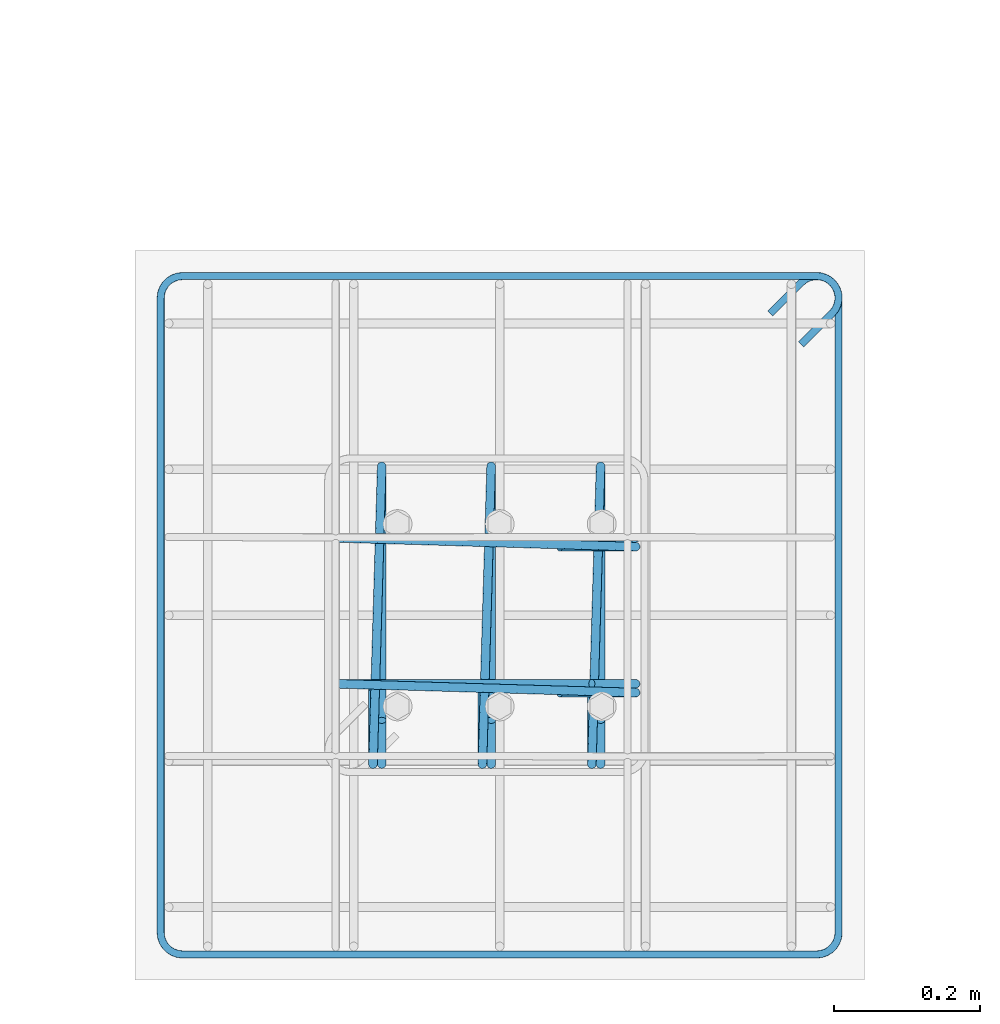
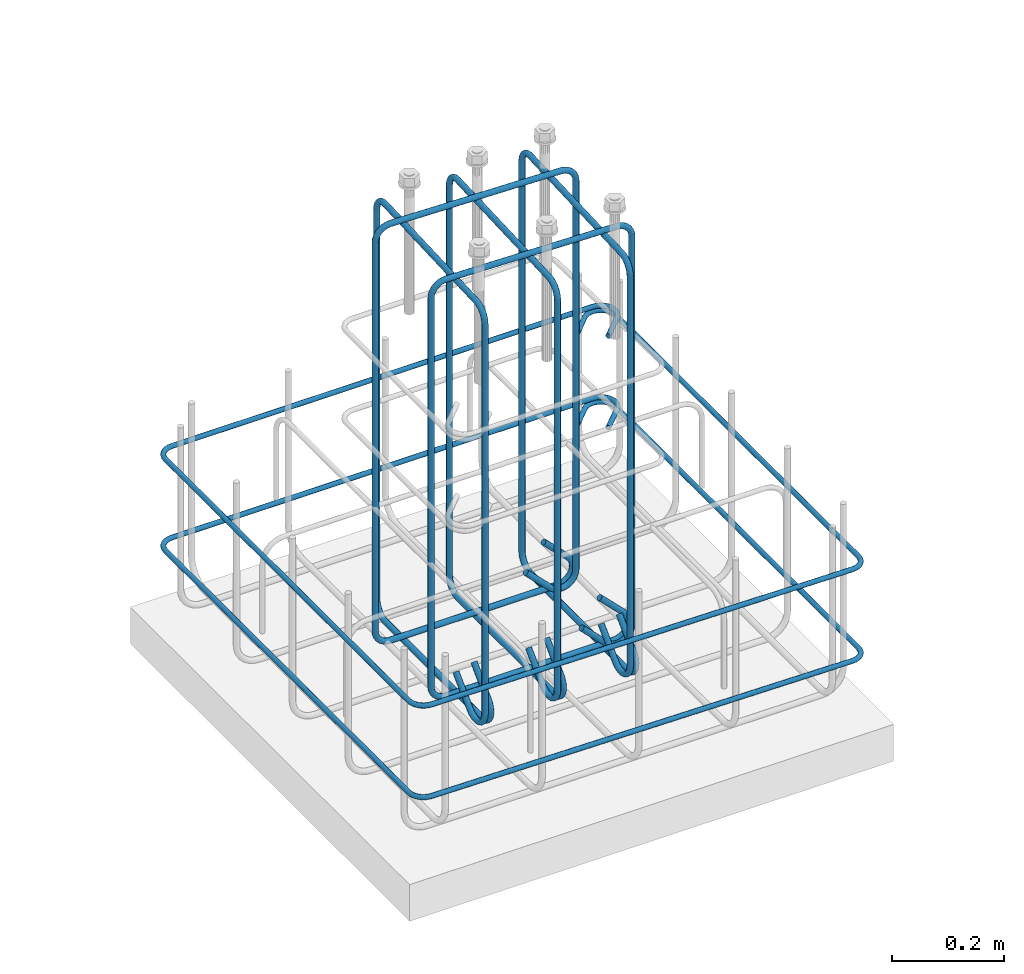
# One storey, part 4 of 12: 3 reinforcing bars.
"""IFC4X3_ADD2 building model written with IfcOpenShell, lengths in millimetres."""

from ifc_helpers import new_model, entity, si_unit, converted_unit, derived_unit, direction, frame, origin, place, context, subcontext, project, spatial, material, type_object, element, save


model = new_model("IFC4X3_ADD2")

# Units and contexts
model_context = context("Model", 3, precision=0.01, world=origin(), true_north=direction((6.123233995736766e-17, 1.0)))
plan_context = context("Plan", 3, precision=0.01, world=origin(), true_north=direction((6.123233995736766e-17, 1.0)))
body_context = subcontext(model_context, "Body", "Model", "MODEL_VIEW")
ifc_project = project(units=[si_unit("LENGTHUNIT", "METRE", prefix="MILLI"), converted_unit("PLANEANGLEUNIT", "DEGREE", entity("IfcPlaneAngleMeasure", 0.017453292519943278), si_unit("PLANEANGLEUNIT", "RADIAN"), dimensions=[0, 0, 0, 0, 0, 0, 0]), si_unit("AREAUNIT", "SQUARE_METRE"), si_unit("VOLUMEUNIT", "CUBIC_METRE"), derived_unit("THERMALTRANSMITTANCEUNIT", [(si_unit("MASSUNIT", "GRAM", prefix="KILO"), 1), (si_unit("THERMODYNAMICTEMPERATUREUNIT", "KELVIN"), -1), (si_unit("TIMEUNIT", "SECOND"), -3)]), derived_unit("USERDEFINED", [(si_unit("MASSUNIT", "GRAM", prefix="KILO"), 1), (si_unit("THERMODYNAMICTEMPERATUREUNIT", "KELVIN"), -1), (si_unit("TIMEUNIT", "SECOND"), -2)]), derived_unit("THERMALRESISTANCEUNIT", [(si_unit("MASSUNIT", "GRAM", prefix="KILO"), -1), (si_unit("TIMEUNIT", "SECOND"), 3), (si_unit("THERMODYNAMICTEMPERATUREUNIT", "KELVIN"), 1)]), si_unit("MASSUNIT", "GRAM", prefix="KILO"), derived_unit("MOMENTOFINERTIAUNIT", [(si_unit("LENGTHUNIT", "METRE"), 4)]), derived_unit("LINEARFORCEUNIT", [(si_unit("MASSUNIT", "GRAM", prefix="KILO"), 1), (si_unit("TIMEUNIT", "SECOND"), -2)]), derived_unit("WARPINGCONSTANTUNIT", [(si_unit("LENGTHUNIT", "METRE"), 6)]), si_unit("PRESSUREUNIT", "PASCAL"), derived_unit("MASSDENSITYUNIT", [(si_unit("MASSUNIT", "GRAM", prefix="KILO"), 1), (si_unit("LENGTHUNIT", "METRE"), -3)]), derived_unit("MODULUSOFELASTICITYUNIT", [(si_unit("MASSUNIT", "GRAM", prefix="KILO"), 1), (si_unit("TIMEUNIT", "SECOND"), -2), (si_unit("LENGTHUNIT", "METRE"), -1)]), derived_unit("THERMALEXPANSIONCOEFFICIENTUNIT", [(si_unit("THERMODYNAMICTEMPERATUREUNIT", "KELVIN"), -1)]), derived_unit("VAPORPERMEABILITYUNIT", [(si_unit("LENGTHUNIT", "METRE"), -1), (si_unit("TIMEUNIT", "SECOND"), 1)]), derived_unit("USERDEFINED", [(si_unit("MASSUNIT", "GRAM", prefix="KILO"), 1), (si_unit("TIMEUNIT", "SECOND"), -3), (si_unit("LENGTHUNIT", "METRE"), 3), (si_unit("ELECTRICCURRENTUNIT", "AMPERE"), -2)]), derived_unit("SPECIFICHEATCAPACITYUNIT", [(si_unit("THERMODYNAMICTEMPERATUREUNIT", "KELVIN"), -1), (si_unit("TIMEUNIT", "SECOND"), -2), (si_unit("LENGTHUNIT", "METRE"), 2)]), derived_unit("THERMALCONDUCTANCEUNIT", [(si_unit("MASSUNIT", "GRAM", prefix="KILO"), 1), (si_unit("THERMODYNAMICTEMPERATUREUNIT", "KELVIN"), -1), (si_unit("TIMEUNIT", "SECOND"), -3), (si_unit("LENGTHUNIT", "METRE"), 1)])], contexts=[model_context, plan_context])

# Site, building, storey
site_placement = place(None, origin())
site = spatial("IfcSite", under=ifc_project, at=site_placement, Name="Default", CompositionType="ELEMENT")
building_placement = place(site_placement, origin())
building = spatial("IfcBuilding", under=site, at=building_placement, Name="Complex structure", CompositionType="ELEMENT")
storey_placement = place(building_placement, frame((0.0, 0.0, -1200.0)))
storey = spatial("IfcBuildingStorey", under=building, at=storey_placement, Name="Level -03", CompositionType="ELEMENT", Elevation=-1200.0)

# Reinforcing bars
ifc_material = material(Name="Steel Rebar - B500A, B or C", Category="Unassigned")
reinforcing_bar_type_1 = type_object("IfcReinforcingBarType", Name="Rebar Bar:12mm", PredefinedType="NOTDEFINED")
reinforcing_bar_1_placement = place(storey_placement, origin())
ifc_direction_1 = entity("IfcDirection", [1.0, 0.0, 0.0])
ifc_direction_2 = entity("IfcDirection", [1.0, 0.0, 0.0])
ifc_direction_3 = entity("IfcDirection", [1.0, 0.0, 0.0])
element("IfcReinforcingBar", 1, at=reinforcing_bar_1_placement, inside=storey, type_object=reinforcing_bar_type_1, material=ifc_material, Name="Rebar Bar:12mm : Shape 52", ObjectType="Rebar Bar:12mm", context=body_context, shape_type="AdvancedSweptSolid", body=[
    entity("IfcSweptDiskSolid", entity("IfcCompositeCurve", [entity("IfcCompositeCurveSegment", "CONTINUOUS", True, entity("IfcPolyline", [entity("IfcCartesianPoint", [-9306.87155030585, -1426.8753259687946, 151.83199846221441]), entity("IfcCartesianPoint", [-9306.87155030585, -1477.7870142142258, 100.92031021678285])])), entity("IfcCompositeCurveSegment", "CONTINUOUS", True, entity("IfcTrimmedCurve", entity("IfcCircle", entity("IfcAxis2Placement3D", entity("IfcCartesianPoint", [-9306.87155030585, -1455.8667039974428, 79.0]), ifc_direction_1, entity("IfcDirection", [0.0, -0.7071067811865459, -0.7071067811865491])), 31.0), [entity("IfcParameterValue", 269.9999999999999)], [entity("IfcParameterValue", 44.99999999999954)], True, "PARAMETER")), entity("IfcCompositeCurveSegment", "CONTINUOUS", True, entity("IfcPolyline", [entity("IfcCartesianPoint", [-9306.87155030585, -1455.8667039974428, 48.0]), entity("IfcCartesianPoint", [-9306.87155030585, -1109.866703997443, 48.0])])), entity("IfcCompositeCurveSegment", "CONTINUOUS", True, entity("IfcTrimmedCurve", entity("IfcCircle", entity("IfcAxis2Placement3D", entity("IfcCartesianPoint", [-9306.87155030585, -1109.866703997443, 79.0]), ifc_direction_1, entity("IfcDirection", [0.0, 1.0, 0.0])), 31.0), [entity("IfcParameterValue", 269.9999999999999)], [entity("IfcParameterValue", 360.00000000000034)], True, "PARAMETER")), entity("IfcCompositeCurveSegment", "CONTINUOUS", True, entity("IfcPolyline", [entity("IfcCartesianPoint", [-9306.87155030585, -1078.866703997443, 79.0]), entity("IfcCartesianPoint", [-9306.87155030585, -1078.866703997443, 930.0])])), entity("IfcCompositeCurveSegment", "CONTINUOUS", True, entity("IfcTrimmedCurve", entity("IfcCircle", entity("IfcAxis2Placement3D", entity("IfcCartesianPoint", [-9307.782920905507, -1109.8533043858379, 930.0]), entity("IfcDirection", [0.9995677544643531, -0.02939905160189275, 0.0]), entity("IfcDirection", [0.0, 0.0, 1.0])), 31.0), [entity("IfcParameterValue", 269.9999999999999)], [entity("IfcParameterValue", 360.00000000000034)], True, "PARAMETER")), entity("IfcCompositeCurveSegment", "CONTINUOUS", True, entity("IfcPolyline", [entity("IfcCartesianPoint", [-9307.782920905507, -1109.8533043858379, 961.0]), entity("IfcCartesianPoint", [-9317.96017970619, -1455.8801036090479, 961.0])])), entity("IfcCompositeCurveSegment", "CONTINUOUS", True, entity("IfcTrimmedCurve", entity("IfcCircle", entity("IfcAxis2Placement3D", entity("IfcCartesianPoint", [-9317.96017970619, -1455.8801036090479, 930.0]), entity("IfcDirection", [0.9995677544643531, -0.02939905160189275, 0.0]), entity("IfcDirection", [-0.02939905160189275, -0.9995677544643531, 0.0])), 31.0), [entity("IfcParameterValue", 269.9999999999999)], [entity("IfcParameterValue", 360.00000000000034)], True, "PARAMETER")), entity("IfcCompositeCurveSegment", "CONTINUOUS", True, entity("IfcPolyline", [entity("IfcCartesianPoint", [-9318.87155030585, -1486.8667039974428, 930.0]), entity("IfcCartesianPoint", [-9318.87155030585, -1486.8667039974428, 79.0])])), entity("IfcCompositeCurveSegment", "CONTINUOUS", True, entity("IfcTrimmedCurve", entity("IfcCircle", entity("IfcAxis2Placement3D", entity("IfcCartesianPoint", [-9318.87155030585, -1455.8667039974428, 79.0]), ifc_direction_1, entity("IfcDirection", [0.0, 0.0, -1.0])), 31.0), [entity("IfcParameterValue", 269.9999999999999)], [entity("IfcParameterValue", 44.99999999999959)], True, "PARAMETER")), entity("IfcCompositeCurveSegment", "CONTINUOUS", True, entity("IfcPolyline", [entity("IfcCartesianPoint", [-9318.87155030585, -1433.9463937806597, 57.0796897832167]), entity("IfcCartesianPoint", [-9318.87155030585, -1383.034705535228, 107.99137802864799])]))], False), 6.0, None, 0.0, 546.0000000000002),
    entity("IfcSweptDiskSolid", entity("IfcCompositeCurve", [entity("IfcCompositeCurveSegment", "CONTINUOUS", True, entity("IfcPolyline", [entity("IfcCartesianPoint", [-9156.87155030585, -1426.8753259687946, 151.83199846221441]), entity("IfcCartesianPoint", [-9156.87155030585, -1477.7870142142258, 100.92031021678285])])), entity("IfcCompositeCurveSegment", "CONTINUOUS", True, entity("IfcTrimmedCurve", entity("IfcCircle", entity("IfcAxis2Placement3D", entity("IfcCartesianPoint", [-9156.87155030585, -1455.8667039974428, 79.0]), ifc_direction_2, entity("IfcDirection", [0.0, -0.7071067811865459, -0.7071067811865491])), 31.0), [entity("IfcParameterValue", 269.9999999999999)], [entity("IfcParameterValue", 44.99999999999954)], True, "PARAMETER")), entity("IfcCompositeCurveSegment", "CONTINUOUS", True, entity("IfcPolyline", [entity("IfcCartesianPoint", [-9156.87155030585, -1455.8667039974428, 48.0]), entity("IfcCartesianPoint", [-9156.87155030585, -1109.866703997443, 48.0])])), entity("IfcCompositeCurveSegment", "CONTINUOUS", True, entity("IfcTrimmedCurve", entity("IfcCircle", entity("IfcAxis2Placement3D", entity("IfcCartesianPoint", [-9156.87155030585, -1109.866703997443, 79.0]), ifc_direction_2, entity("IfcDirection", [0.0, 1.0, 0.0])), 31.0), [entity("IfcParameterValue", 269.9999999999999)], [entity("IfcParameterValue", 360.00000000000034)], True, "PARAMETER")), entity("IfcCompositeCurveSegment", "CONTINUOUS", True, entity("IfcPolyline", [entity("IfcCartesianPoint", [-9156.87155030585, -1078.866703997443, 79.0]), entity("IfcCartesianPoint", [-9156.87155030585, -1078.866703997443, 930.0])])), entity("IfcCompositeCurveSegment", "CONTINUOUS", True, entity("IfcTrimmedCurve", entity("IfcCircle", entity("IfcAxis2Placement3D", entity("IfcCartesianPoint", [-9157.782920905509, -1109.8533043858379, 930.0]), entity("IfcDirection", [0.9995677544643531, -0.02939905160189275, 0.0]), entity("IfcDirection", [0.0, 0.0, 1.0])), 31.0), [entity("IfcParameterValue", 269.9999999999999)], [entity("IfcParameterValue", 360.00000000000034)], True, "PARAMETER")), entity("IfcCompositeCurveSegment", "CONTINUOUS", True, entity("IfcPolyline", [entity("IfcCartesianPoint", [-9157.782920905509, -1109.8533043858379, 961.0]), entity("IfcCartesianPoint", [-9167.960179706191, -1455.8801036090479, 961.0])])), entity("IfcCompositeCurveSegment", "CONTINUOUS", True, entity("IfcTrimmedCurve", entity("IfcCircle", entity("IfcAxis2Placement3D", entity("IfcCartesianPoint", [-9167.960179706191, -1455.8801036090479, 930.0]), entity("IfcDirection", [0.9995677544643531, -0.02939905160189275, 0.0]), entity("IfcDirection", [-0.02939905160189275, -0.9995677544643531, 0.0])), 31.0), [entity("IfcParameterValue", 269.9999999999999)], [entity("IfcParameterValue", 360.00000000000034)], True, "PARAMETER")), entity("IfcCompositeCurveSegment", "CONTINUOUS", True, entity("IfcPolyline", [entity("IfcCartesianPoint", [-9168.87155030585, -1486.8667039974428, 930.0]), entity("IfcCartesianPoint", [-9168.87155030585, -1486.8667039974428, 79.0])])), entity("IfcCompositeCurveSegment", "CONTINUOUS", True, entity("IfcTrimmedCurve", entity("IfcCircle", entity("IfcAxis2Placement3D", entity("IfcCartesianPoint", [-9168.87155030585, -1455.8667039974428, 79.0]), ifc_direction_2, entity("IfcDirection", [0.0, 0.0, -1.0])), 31.0), [entity("IfcParameterValue", 269.9999999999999)], [entity("IfcParameterValue", 44.99999999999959)], True, "PARAMETER")), entity("IfcCompositeCurveSegment", "CONTINUOUS", True, entity("IfcPolyline", [entity("IfcCartesianPoint", [-9168.87155030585, -1433.9463937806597, 57.0796897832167]), entity("IfcCartesianPoint", [-9168.87155030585, -1383.034705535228, 107.99137802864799])]))], False), 6.0, None, 0.0, 546.0000000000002),
    entity("IfcSweptDiskSolid", entity("IfcCompositeCurve", [entity("IfcCompositeCurveSegment", "CONTINUOUS", True, entity("IfcPolyline", [entity("IfcCartesianPoint", [-9006.87155030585, -1426.8753259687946, 151.83199846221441]), entity("IfcCartesianPoint", [-9006.87155030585, -1477.7870142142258, 100.92031021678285])])), entity("IfcCompositeCurveSegment", "CONTINUOUS", True, entity("IfcTrimmedCurve", entity("IfcCircle", entity("IfcAxis2Placement3D", entity("IfcCartesianPoint", [-9006.87155030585, -1455.8667039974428, 79.0]), ifc_direction_3, entity("IfcDirection", [0.0, -0.7071067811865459, -0.7071067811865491])), 31.0), [entity("IfcParameterValue", 269.9999999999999)], [entity("IfcParameterValue", 44.99999999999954)], True, "PARAMETER")), entity("IfcCompositeCurveSegment", "CONTINUOUS", True, entity("IfcPolyline", [entity("IfcCartesianPoint", [-9006.87155030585, -1455.8667039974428, 48.0]), entity("IfcCartesianPoint", [-9006.87155030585, -1109.866703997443, 48.0])])), entity("IfcCompositeCurveSegment", "CONTINUOUS", True, entity("IfcTrimmedCurve", entity("IfcCircle", entity("IfcAxis2Placement3D", entity("IfcCartesianPoint", [-9006.87155030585, -1109.866703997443, 79.0]), ifc_direction_3, entity("IfcDirection", [0.0, 1.0, 0.0])), 31.0), [entity("IfcParameterValue", 269.9999999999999)], [entity("IfcParameterValue", 360.00000000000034)], True, "PARAMETER")), entity("IfcCompositeCurveSegment", "CONTINUOUS", True, entity("IfcPolyline", [entity("IfcCartesianPoint", [-9006.87155030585, -1078.866703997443, 79.0]), entity("IfcCartesianPoint", [-9006.87155030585, -1078.866703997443, 930.0])])), entity("IfcCompositeCurveSegment", "CONTINUOUS", True, entity("IfcTrimmedCurve", entity("IfcCircle", entity("IfcAxis2Placement3D", entity("IfcCartesianPoint", [-9007.782920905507, -1109.8533043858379, 930.0]), entity("IfcDirection", [0.9995677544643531, -0.02939905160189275, 0.0]), entity("IfcDirection", [0.0, 0.0, 1.0])), 31.0), [entity("IfcParameterValue", 269.9999999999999)], [entity("IfcParameterValue", 360.00000000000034)], True, "PARAMETER")), entity("IfcCompositeCurveSegment", "CONTINUOUS", True, entity("IfcPolyline", [entity("IfcCartesianPoint", [-9007.782920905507, -1109.8533043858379, 961.0]), entity("IfcCartesianPoint", [-9017.96017970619, -1455.8801036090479, 961.0])])), entity("IfcCompositeCurveSegment", "CONTINUOUS", True, entity("IfcTrimmedCurve", entity("IfcCircle", entity("IfcAxis2Placement3D", entity("IfcCartesianPoint", [-9017.96017970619, -1455.8801036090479, 930.0]), entity("IfcDirection", [0.9995677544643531, -0.02939905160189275, 0.0]), entity("IfcDirection", [-0.02939905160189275, -0.9995677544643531, 0.0])), 31.0), [entity("IfcParameterValue", 269.9999999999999)], [entity("IfcParameterValue", 360.00000000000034)], True, "PARAMETER")), entity("IfcCompositeCurveSegment", "CONTINUOUS", True, entity("IfcPolyline", [entity("IfcCartesianPoint", [-9018.87155030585, -1486.8667039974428, 930.0]), entity("IfcCartesianPoint", [-9018.87155030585, -1486.8667039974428, 79.0])])), entity("IfcCompositeCurveSegment", "CONTINUOUS", True, entity("IfcTrimmedCurve", entity("IfcCircle", entity("IfcAxis2Placement3D", entity("IfcCartesianPoint", [-9018.87155030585, -1455.8667039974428, 79.0]), ifc_direction_3, entity("IfcDirection", [0.0, 0.0, -1.0])), 31.0), [entity("IfcParameterValue", 269.9999999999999)], [entity("IfcParameterValue", 44.99999999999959)], True, "PARAMETER")), entity("IfcCompositeCurveSegment", "CONTINUOUS", True, entity("IfcPolyline", [entity("IfcCartesianPoint", [-9018.87155030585, -1433.9463937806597, 57.0796897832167]), entity("IfcCartesianPoint", [-9018.87155030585, -1383.034705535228, 107.99137802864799])]))], False), 6.0, None, 0.0, 546.0000000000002),
])
reinforcing_bar_2_placement = place(storey_placement, origin())
ifc_direction_4 = entity("IfcDirection", [0.0, 1.0, 0.0])
ifc_direction_5 = entity("IfcDirection", [0.0, 1.0, 0.0])
element("IfcReinforcingBar", 2, at=reinforcing_bar_2_placement, inside=storey, type_object=reinforcing_bar_type_1, material=ifc_material, Name="Rebar Bar:12mm : Shape 52", ObjectType="Rebar Bar:12mm", context=body_context, shape_type="AdvancedSweptSolid", body=[
    entity("IfcSweptDiskSolid", entity("IfcCompositeCurve", [entity("IfcCompositeCurveSegment", "CONTINUOUS", True, entity("IfcPolyline", [entity("IfcCartesianPoint", [-9018.862928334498, -1376.866703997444, 161.83199846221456]), entity("IfcCartesianPoint", [-8967.951240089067, -1376.8667039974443, 110.92031021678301])])), entity("IfcCompositeCurveSegment", "CONTINUOUS", True, entity("IfcTrimmedCurve", entity("IfcCircle", entity("IfcAxis2Placement3D", entity("IfcCartesianPoint", [-8989.87155030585, -1376.8667039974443, 89.0]), ifc_direction_4, entity("IfcDirection", [0.7071067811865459, 0.0, -0.7071067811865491])), 31.0), [entity("IfcParameterValue", 269.9999999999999)], [entity("IfcParameterValue", 44.99999999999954)], True, "PARAMETER")), entity("IfcCompositeCurveSegment", "CONTINUOUS", True, entity("IfcPolyline", [entity("IfcCartesianPoint", [-8989.87155030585, -1376.8667039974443, 58.0]), entity("IfcCartesianPoint", [-9335.871550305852, -1376.8667039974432, 58.0])])), entity("IfcCompositeCurveSegment", "CONTINUOUS", True, entity("IfcTrimmedCurve", entity("IfcCircle", entity("IfcAxis2Placement3D", entity("IfcCartesianPoint", [-9335.871550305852, -1376.8667039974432, 89.0]), ifc_direction_4, entity("IfcDirection", [-1.0, 0.0, 0.0])), 31.0), [entity("IfcParameterValue", 269.9999999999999)], [entity("IfcParameterValue", 360.00000000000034)], True, "PARAMETER")), entity("IfcCompositeCurveSegment", "CONTINUOUS", True, entity("IfcPolyline", [entity("IfcCartesianPoint", [-9366.871550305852, -1376.8667039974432, 89.0]), entity("IfcCartesianPoint", [-9366.871550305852, -1376.8667039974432, 938.0])])), entity("IfcCompositeCurveSegment", "CONTINUOUS", True, entity("IfcTrimmedCurve", entity("IfcCircle", entity("IfcAxis2Placement3D", entity("IfcCartesianPoint", [-9335.884949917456, -1377.7780745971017, 938.0]), entity("IfcDirection", [0.029399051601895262, 0.9995677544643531, 0.0]), entity("IfcDirection", [0.0, 0.0, 1.0])), 31.0), [entity("IfcParameterValue", 269.9999999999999)], [entity("IfcParameterValue", 360.00000000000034)], True, "PARAMETER")), entity("IfcCompositeCurveSegment", "CONTINUOUS", True, entity("IfcPolyline", [entity("IfcCartesianPoint", [-9335.884949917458, -1377.7780745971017, 969.0]), entity("IfcCartesianPoint", [-8989.858150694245, -1387.9553333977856, 969.0])])), entity("IfcCompositeCurveSegment", "CONTINUOUS", True, entity("IfcTrimmedCurve", entity("IfcCircle", entity("IfcAxis2Placement3D", entity("IfcCartesianPoint", [-8989.858150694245, -1387.9553333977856, 938.0]), entity("IfcDirection", [0.029399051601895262, 0.9995677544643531, 0.0]), entity("IfcDirection", [0.9995677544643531, -0.029399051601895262, 0.0])), 31.0), [entity("IfcParameterValue", 269.9999999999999)], [entity("IfcParameterValue", 360.00000000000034)], True, "PARAMETER")), entity("IfcCompositeCurveSegment", "CONTINUOUS", True, entity("IfcPolyline", [entity("IfcCartesianPoint", [-8958.87155030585, -1388.8667039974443, 938.0]), entity("IfcCartesianPoint", [-8958.87155030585, -1388.8667039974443, 89.0])])), entity("IfcCompositeCurveSegment", "CONTINUOUS", True, entity("IfcTrimmedCurve", entity("IfcCircle", entity("IfcAxis2Placement3D", entity("IfcCartesianPoint", [-8989.87155030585, -1388.8667039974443, 89.0]), ifc_direction_4, entity("IfcDirection", [0.0, 0.0, -1.0])), 31.0), [entity("IfcParameterValue", 269.9999999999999)], [entity("IfcParameterValue", 44.99999999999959)], True, "PARAMETER")), entity("IfcCompositeCurveSegment", "CONTINUOUS", True, entity("IfcPolyline", [entity("IfcCartesianPoint", [-9011.791860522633, -1388.866703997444, 67.07968978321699]), entity("IfcCartesianPoint", [-9062.703548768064, -1388.8667039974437, 117.99137802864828])]))], False), 6.0, None, 0.0, 546.0000000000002),
    entity("IfcSweptDiskSolid", entity("IfcCompositeCurve", [entity("IfcCompositeCurveSegment", "CONTINUOUS", True, entity("IfcPolyline", [entity("IfcCartesianPoint", [-9018.862928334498, -1176.8667039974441, 161.83199846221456]), entity("IfcCartesianPoint", [-8967.951240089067, -1176.8667039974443, 110.92031021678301])])), entity("IfcCompositeCurveSegment", "CONTINUOUS", True, entity("IfcTrimmedCurve", entity("IfcCircle", entity("IfcAxis2Placement3D", entity("IfcCartesianPoint", [-8989.87155030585, -1176.8667039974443, 89.0]), ifc_direction_5, entity("IfcDirection", [0.7071067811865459, 0.0, -0.7071067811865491])), 31.0), [entity("IfcParameterValue", 269.9999999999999)], [entity("IfcParameterValue", 44.99999999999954)], True, "PARAMETER")), entity("IfcCompositeCurveSegment", "CONTINUOUS", True, entity("IfcPolyline", [entity("IfcCartesianPoint", [-8989.87155030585, -1176.8667039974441, 58.0]), entity("IfcCartesianPoint", [-9335.871550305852, -1176.8667039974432, 58.0])])), entity("IfcCompositeCurveSegment", "CONTINUOUS", True, entity("IfcTrimmedCurve", entity("IfcCircle", entity("IfcAxis2Placement3D", entity("IfcCartesianPoint", [-9335.871550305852, -1176.8667039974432, 89.0]), ifc_direction_5, entity("IfcDirection", [-1.0, 0.0, 0.0])), 31.0), [entity("IfcParameterValue", 269.9999999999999)], [entity("IfcParameterValue", 360.00000000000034)], True, "PARAMETER")), entity("IfcCompositeCurveSegment", "CONTINUOUS", True, entity("IfcPolyline", [entity("IfcCartesianPoint", [-9366.871550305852, -1176.8667039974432, 89.0]), entity("IfcCartesianPoint", [-9366.871550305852, -1176.8667039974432, 938.0])])), entity("IfcCompositeCurveSegment", "CONTINUOUS", True, entity("IfcTrimmedCurve", entity("IfcCircle", entity("IfcAxis2Placement3D", entity("IfcCartesianPoint", [-9335.884949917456, -1177.7780745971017, 938.0]), entity("IfcDirection", [0.029399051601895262, 0.9995677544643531, 0.0]), entity("IfcDirection", [0.0, 0.0, 1.0])), 31.0), [entity("IfcParameterValue", 269.9999999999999)], [entity("IfcParameterValue", 360.00000000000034)], True, "PARAMETER")), entity("IfcCompositeCurveSegment", "CONTINUOUS", True, entity("IfcPolyline", [entity("IfcCartesianPoint", [-9335.884949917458, -1177.778074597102, 969.0]), entity("IfcCartesianPoint", [-8989.858150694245, -1187.9553333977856, 969.0])])), entity("IfcCompositeCurveSegment", "CONTINUOUS", True, entity("IfcTrimmedCurve", entity("IfcCircle", entity("IfcAxis2Placement3D", entity("IfcCartesianPoint", [-8989.858150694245, -1187.9553333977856, 938.0]), entity("IfcDirection", [0.029399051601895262, 0.9995677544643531, 0.0]), entity("IfcDirection", [0.9995677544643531, -0.029399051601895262, 0.0])), 31.0), [entity("IfcParameterValue", 269.9999999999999)], [entity("IfcParameterValue", 360.00000000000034)], True, "PARAMETER")), entity("IfcCompositeCurveSegment", "CONTINUOUS", True, entity("IfcPolyline", [entity("IfcCartesianPoint", [-8958.87155030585, -1188.8667039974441, 938.0]), entity("IfcCartesianPoint", [-8958.87155030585, -1188.8667039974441, 89.0])])), entity("IfcCompositeCurveSegment", "CONTINUOUS", True, entity("IfcTrimmedCurve", entity("IfcCircle", entity("IfcAxis2Placement3D", entity("IfcCartesianPoint", [-8989.87155030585, -1188.8667039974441, 89.0]), ifc_direction_5, entity("IfcDirection", [0.0, 0.0, -1.0])), 31.0), [entity("IfcParameterValue", 269.9999999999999)], [entity("IfcParameterValue", 44.99999999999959)], True, "PARAMETER")), entity("IfcCompositeCurveSegment", "CONTINUOUS", True, entity("IfcPolyline", [entity("IfcCartesianPoint", [-9011.791860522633, -1188.866703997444, 67.07968978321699]), entity("IfcCartesianPoint", [-9062.703548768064, -1188.866703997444, 117.99137802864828])]))], False), 6.0, None, 0.0, 546.0000000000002),
])
reinforcing_bar_type_2 = type_object("IfcReinforcingBarType", Name="Rebar Bar:10mm", PredefinedType="NOTDEFINED")
reinforcing_bar_3_placement = place(storey_placement, origin())
ifc_direction_6 = entity("IfcDirection", [0.0, 0.0, 1.0])
ifc_direction_7 = entity("IfcDirection", [0.0, 0.0, 1.0])
element("IfcReinforcingBar", 3, at=reinforcing_bar_3_placement, inside=storey, type_object=reinforcing_bar_type_2, material=ifc_material, Name="Rebar Bar:10mm : Shape 52", ObjectType="Rebar Bar:10mm", context=body_context, shape_type="AdvancedSweptSolid", body=[
    entity("IfcSweptDiskSolid", entity("IfcCompositeCurve", [entity("IfcCompositeCurveSegment", "CONTINUOUS", True, entity("IfcPolyline", [entity("IfcCartesianPoint", [-8731.78475374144, -911.5063143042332, 150.0]), entity("IfcCartesianPoint", [-8689.358346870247, -869.0799074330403, 150.0])])), entity("IfcCompositeCurveSegment", "CONTINUOUS", True, entity("IfcTrimmedCurve", entity("IfcCircle", entity("IfcAxis2Placement3D", entity("IfcCartesianPoint", [-8710.571550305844, -847.8667039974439, 150.0]), ifc_direction_6, entity("IfcDirection", [0.7071067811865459, 0.7071067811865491, 0.0])), 30.000000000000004), [entity("IfcParameterValue", 269.9999999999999)], [entity("IfcParameterValue", 44.99999999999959)], True, "PARAMETER")), entity("IfcCompositeCurveSegment", "CONTINUOUS", True, entity("IfcPolyline", [entity("IfcCartesianPoint", [-8710.571550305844, -817.8667039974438, 150.0]), entity("IfcCartesianPoint", [-9579.871550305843, -817.8667039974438, 150.0])])), entity("IfcCompositeCurveSegment", "CONTINUOUS", True, entity("IfcTrimmedCurve", entity("IfcCircle", entity("IfcAxis2Placement3D", entity("IfcCartesianPoint", [-9579.871550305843, -847.8667039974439, 150.0]), ifc_direction_6, entity("IfcDirection", [-1.0, 0.0, 0.0])), 30.000000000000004), [entity("IfcParameterValue", 269.9999999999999)], [entity("IfcParameterValue", 360.00000000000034)], True, "PARAMETER")), entity("IfcCompositeCurveSegment", "CONTINUOUS", True, entity("IfcPolyline", [entity("IfcCartesianPoint", [-9609.871550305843, -847.8667039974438, 150.0]), entity("IfcCartesianPoint", [-9609.871550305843, -1717.866703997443, 150.0])])), entity("IfcCompositeCurveSegment", "CONTINUOUS", True, entity("IfcTrimmedCurve", entity("IfcCircle", entity("IfcAxis2Placement3D", entity("IfcCartesianPoint", [-9579.87328707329, -1717.866703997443, 149.67719505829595]), entity("IfcDirection", [0.010760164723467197, 0.0, 0.9999421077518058]), entity("IfcDirection", [0.0, -1.0, 0.0])), 30.000000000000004), [entity("IfcParameterValue", 269.9999999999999)], [entity("IfcParameterValue", 360.00000000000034)], True, "PARAMETER")), entity("IfcCompositeCurveSegment", "CONTINUOUS", True, entity("IfcPolyline", [entity("IfcCartesianPoint", [-9579.87328707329, -1747.866703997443, 149.67719505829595]), entity("IfcCartesianPoint", [-8710.569813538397, -1747.866703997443, 140.32280494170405])])), entity("IfcCompositeCurveSegment", "CONTINUOUS", True, entity("IfcTrimmedCurve", entity("IfcCircle", entity("IfcAxis2Placement3D", entity("IfcCartesianPoint", [-8710.569813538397, -1717.866703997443, 140.32280494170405]), entity("IfcDirection", [0.010760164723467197, 0.0, 0.9999421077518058]), entity("IfcDirection", [0.9999421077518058, 0.0, -0.010760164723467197])), 30.000000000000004), [entity("IfcParameterValue", 269.9999999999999)], [entity("IfcParameterValue", 360.00000000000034)], True, "PARAMETER")), entity("IfcCompositeCurveSegment", "CONTINUOUS", True, entity("IfcPolyline", [entity("IfcCartesianPoint", [-8680.571550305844, -1717.866703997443, 140.0]), entity("IfcCartesianPoint", [-8680.571550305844, -847.8667039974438, 140.0])])), entity("IfcCompositeCurveSegment", "CONTINUOUS", True, entity("IfcTrimmedCurve", entity("IfcCircle", entity("IfcAxis2Placement3D", entity("IfcCartesianPoint", [-8710.571550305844, -847.8667039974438, 140.0]), ifc_direction_6, entity("IfcDirection", [0.0, 1.0, 0.0])), 30.000000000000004), [entity("IfcParameterValue", 269.9999999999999)], [entity("IfcParameterValue", 44.99999999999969)], True, "PARAMETER")), entity("IfcCompositeCurveSegment", "CONTINUOUS", True, entity("IfcPolyline", [entity("IfcCartesianPoint", [-8731.78475374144, -826.6535005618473, 140.0]), entity("IfcCartesianPoint", [-8774.211160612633, -869.07990743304, 140.0])]))], False), 5.0, None, 0.0, 546.0000000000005),
    entity("IfcSweptDiskSolid", entity("IfcCompositeCurve", [entity("IfcCompositeCurveSegment", "CONTINUOUS", True, entity("IfcPolyline", [entity("IfcCartesianPoint", [-8731.78475374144, -911.5063143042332, 350.0]), entity("IfcCartesianPoint", [-8689.358346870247, -869.0799074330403, 350.0])])), entity("IfcCompositeCurveSegment", "CONTINUOUS", True, entity("IfcTrimmedCurve", entity("IfcCircle", entity("IfcAxis2Placement3D", entity("IfcCartesianPoint", [-8710.571550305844, -847.8667039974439, 350.0]), ifc_direction_7, entity("IfcDirection", [0.7071067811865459, 0.7071067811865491, 0.0])), 30.000000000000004), [entity("IfcParameterValue", 269.9999999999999)], [entity("IfcParameterValue", 44.99999999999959)], True, "PARAMETER")), entity("IfcCompositeCurveSegment", "CONTINUOUS", True, entity("IfcPolyline", [entity("IfcCartesianPoint", [-8710.571550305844, -817.8667039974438, 350.0]), entity("IfcCartesianPoint", [-9579.871550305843, -817.8667039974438, 350.0])])), entity("IfcCompositeCurveSegment", "CONTINUOUS", True, entity("IfcTrimmedCurve", entity("IfcCircle", entity("IfcAxis2Placement3D", entity("IfcCartesianPoint", [-9579.871550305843, -847.8667039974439, 350.0]), ifc_direction_7, entity("IfcDirection", [-1.0, 0.0, 0.0])), 30.000000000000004), [entity("IfcParameterValue", 269.9999999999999)], [entity("IfcParameterValue", 360.00000000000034)], True, "PARAMETER")), entity("IfcCompositeCurveSegment", "CONTINUOUS", True, entity("IfcPolyline", [entity("IfcCartesianPoint", [-9609.871550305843, -847.8667039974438, 350.0]), entity("IfcCartesianPoint", [-9609.871550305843, -1717.866703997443, 350.0])])), entity("IfcCompositeCurveSegment", "CONTINUOUS", True, entity("IfcTrimmedCurve", entity("IfcCircle", entity("IfcAxis2Placement3D", entity("IfcCartesianPoint", [-9579.87328707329, -1717.866703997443, 349.677195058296]), entity("IfcDirection", [0.010760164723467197, 0.0, 0.9999421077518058]), entity("IfcDirection", [0.0, -1.0, 0.0])), 30.000000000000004), [entity("IfcParameterValue", 269.9999999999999)], [entity("IfcParameterValue", 360.00000000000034)], True, "PARAMETER")), entity("IfcCompositeCurveSegment", "CONTINUOUS", True, entity("IfcPolyline", [entity("IfcCartesianPoint", [-9579.87328707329, -1747.866703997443, 349.677195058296]), entity("IfcCartesianPoint", [-8710.569813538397, -1747.866703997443, 340.3228049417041])])), entity("IfcCompositeCurveSegment", "CONTINUOUS", True, entity("IfcTrimmedCurve", entity("IfcCircle", entity("IfcAxis2Placement3D", entity("IfcCartesianPoint", [-8710.569813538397, -1717.866703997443, 340.3228049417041]), entity("IfcDirection", [0.010760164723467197, 0.0, 0.9999421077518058]), entity("IfcDirection", [0.9999421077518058, 0.0, -0.010760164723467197])), 30.000000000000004), [entity("IfcParameterValue", 269.9999999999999)], [entity("IfcParameterValue", 360.00000000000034)], True, "PARAMETER")), entity("IfcCompositeCurveSegment", "CONTINUOUS", True, entity("IfcPolyline", [entity("IfcCartesianPoint", [-8680.571550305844, -1717.866703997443, 340.0]), entity("IfcCartesianPoint", [-8680.571550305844, -847.8667039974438, 340.0])])), entity("IfcCompositeCurveSegment", "CONTINUOUS", True, entity("IfcTrimmedCurve", entity("IfcCircle", entity("IfcAxis2Placement3D", entity("IfcCartesianPoint", [-8710.571550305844, -847.8667039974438, 340.0]), ifc_direction_7, entity("IfcDirection", [0.0, 1.0, 0.0])), 30.000000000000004), [entity("IfcParameterValue", 269.9999999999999)], [entity("IfcParameterValue", 44.99999999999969)], True, "PARAMETER")), entity("IfcCompositeCurveSegment", "CONTINUOUS", True, entity("IfcPolyline", [entity("IfcCartesianPoint", [-8731.78475374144, -826.6535005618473, 340.0]), entity("IfcCartesianPoint", [-8774.211160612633, -869.07990743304, 340.0])]))], False), 5.0, None, 0.0, 546.0000000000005),
])

save(model, "model.ifc")
